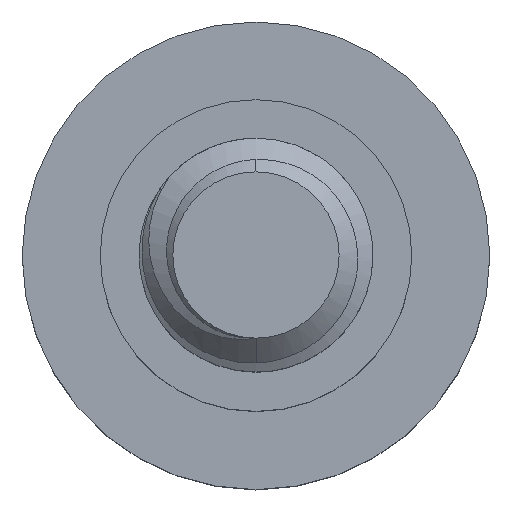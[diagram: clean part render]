
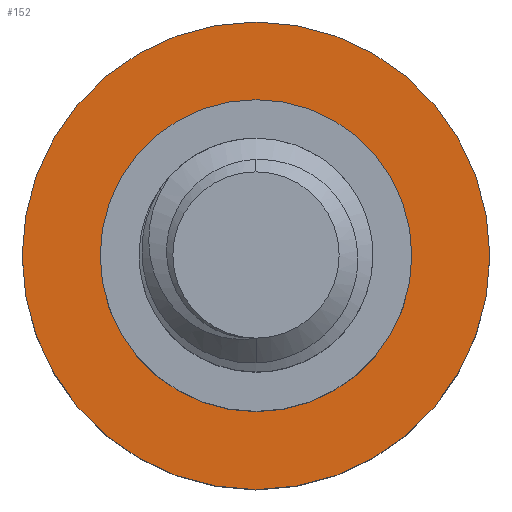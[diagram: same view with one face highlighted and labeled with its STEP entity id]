
A CAD part, top view. The second image highlights one B-rep face of the part: STEP entity #152.
In plain terms, the highlighted planar face has unit normal (0, 0, 1).
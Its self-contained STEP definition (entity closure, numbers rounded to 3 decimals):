
#25 = CARTESIAN_POINT ( 'NONE',  ( -3., 0., -2. ) ) ;
#82 = VERTEX_POINT ( 'NONE', #417 ) ;
#90 = ORIENTED_EDGE ( 'NONE', *, *, #955, .T. ) ;
#152 = ADVANCED_FACE ( 'NONE', ( #940, #1460 ), #2145, .F. ) ;
#200 = DIRECTION ( 'NONE',  ( -1., 0., 0. ) ) ;
#330 = AXIS2_PLACEMENT_3D ( 'NONE', #2244, #1371, #200 ) ;
#406 = CIRCLE ( 'NONE', #1677, 2. ) ;
#417 = CARTESIAN_POINT ( 'NONE',  ( 3., 0., -2. ) ) ;
#424 = DIRECTION ( 'NONE',  ( 0., 0., -1. ) ) ;
#580 = DIRECTION ( 'NONE',  ( 0., 0., -1. ) ) ;
#683 = CARTESIAN_POINT ( 'NONE',  ( 0., 0., -2. ) ) ;
#685 = ORIENTED_EDGE ( 'NONE', *, *, #925, .F. ) ;
#702 = EDGE_LOOP ( 'NONE', ( #685, #1531 ) ) ;
#720 = CIRCLE ( 'NONE', #934, 3. ) ;
#761 = CARTESIAN_POINT ( 'NONE',  ( 0., 0., -2. ) ) ;
#852 = DIRECTION ( 'NONE',  ( 0., 0., -1. ) ) ;
#925 = EDGE_CURVE ( 'NONE', #82, #954, #1889, .T. ) ;
#934 = AXIS2_PLACEMENT_3D ( 'NONE', #1999, #424, #1117 ) ;
#940 = FACE_BOUND ( 'NONE', #1146, .T. ) ;
#954 = VERTEX_POINT ( 'NONE', #25 ) ;
#955 = EDGE_CURVE ( 'NONE', #1663, #1666, #406, .T. ) ;
#1017 = DIRECTION ( 'NONE',  ( -1., 0., 0. ) ) ;
#1064 = CARTESIAN_POINT ( 'NONE',  ( 2., 0., -2. ) ) ;
#1117 = DIRECTION ( 'NONE',  ( -1., 0., 0. ) ) ;
#1131 = EDGE_CURVE ( 'NONE', #1666, #1663, #1468, .T. ) ;
#1146 = EDGE_LOOP ( 'NONE', ( #2180, #90 ) ) ;
#1192 = AXIS2_PLACEMENT_3D ( 'NONE', #761, #580, #1979 ) ;
#1371 = DIRECTION ( 'NONE',  ( 0., 0., -1. ) ) ;
#1460 = FACE_OUTER_BOUND ( 'NONE', #702, .T. ) ;
#1468 = CIRCLE ( 'NONE', #1746, 2. ) ;
#1521 = DIRECTION ( 'NONE',  ( -1., 0., 0. ) ) ;
#1531 = ORIENTED_EDGE ( 'NONE', *, *, #2206, .F. ) ;
#1663 = VERTEX_POINT ( 'NONE', #1064 ) ;
#1666 = VERTEX_POINT ( 'NONE', #1767 ) ;
#1677 = AXIS2_PLACEMENT_3D ( 'NONE', #683, #1894, #1017 ) ;
#1722 = CARTESIAN_POINT ( 'NONE',  ( 0., 0., -2. ) ) ;
#1746 = AXIS2_PLACEMENT_3D ( 'NONE', #1722, #852, #1521 ) ;
#1767 = CARTESIAN_POINT ( 'NONE',  ( -2., 0., -2. ) ) ;
#1889 = CIRCLE ( 'NONE', #330, 3. ) ;
#1894 = DIRECTION ( 'NONE',  ( 0., 0., -1. ) ) ;
#1979 = DIRECTION ( 'NONE',  ( -1., 0., 0. ) ) ;
#1999 = CARTESIAN_POINT ( 'NONE',  ( 0., 0., -2. ) ) ;
#2145 = PLANE ( 'NONE',  #1192 ) ;
#2180 = ORIENTED_EDGE ( 'NONE', *, *, #1131, .T. ) ;
#2206 = EDGE_CURVE ( 'NONE', #954, #82, #720, .T. ) ;
#2244 = CARTESIAN_POINT ( 'NONE',  ( 0., 0., -2. ) ) ;
